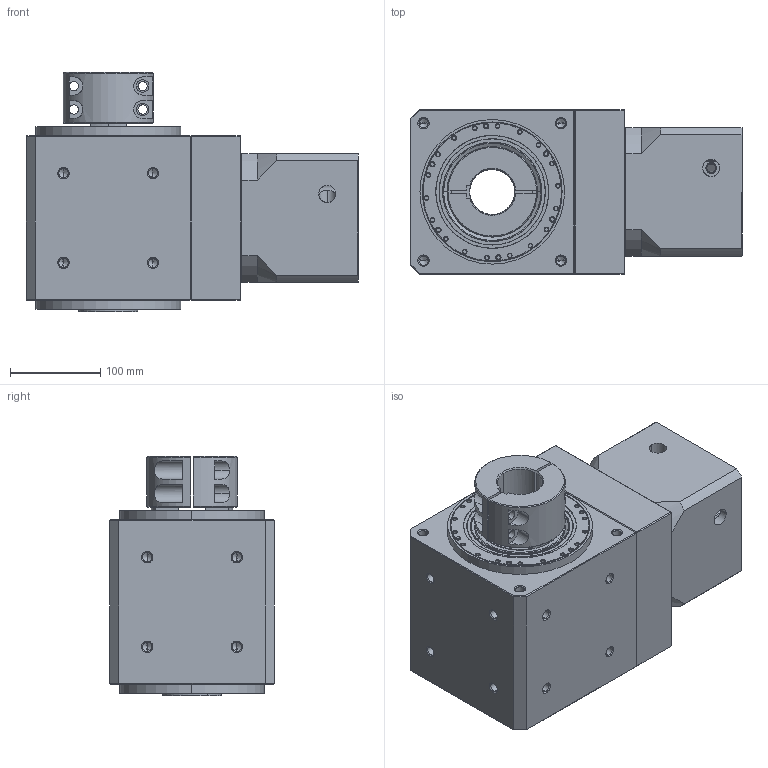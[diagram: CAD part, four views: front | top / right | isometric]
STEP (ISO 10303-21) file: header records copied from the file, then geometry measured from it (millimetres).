
FILE_DESCRIPTION (( 'STEP AP203' ), '1' );
FILE_NAME ('WS180F-¡¼-24-110-145-M8(1¡G2°tGNP150L1).STEP', '2014-07-08T09:56:18', ( ' ' ), ( '' ), 'SwSTEP 2.0', 'SolidWorks 2012', '' );
FILE_SCHEMA (( 'CONFIG_CONTROL_DESIGN' ));
Length unit declared in the file: millimetre
Products named in the file (1): WS180F-¡¼-24-110-145-M8(1¡G2°tGNP150L1)
Bounding box: 367.3 x 182 x 264.5 mm (x, y, z)
Volume: 6844242.2 mm3; surface area: 934971.6 mm2
Topology: 11 solids, 11 shells, 1180 faces, 2722 edges, 1614 vertices
Faces by surface type: cylinder 450, cone 419, plane 243, torus 60, bspline 8
Entity records: 35711 total; most frequent: CARTESIAN_POINT 8183, DIRECTION 6248, ORIENTED_EDGE 5332, EDGE_CURVE 2666, AXIS2_PLACEMENT_3D 2563, VERTEX_POINT 1614, EDGE_LOOP 1428, CIRCLE 1390
